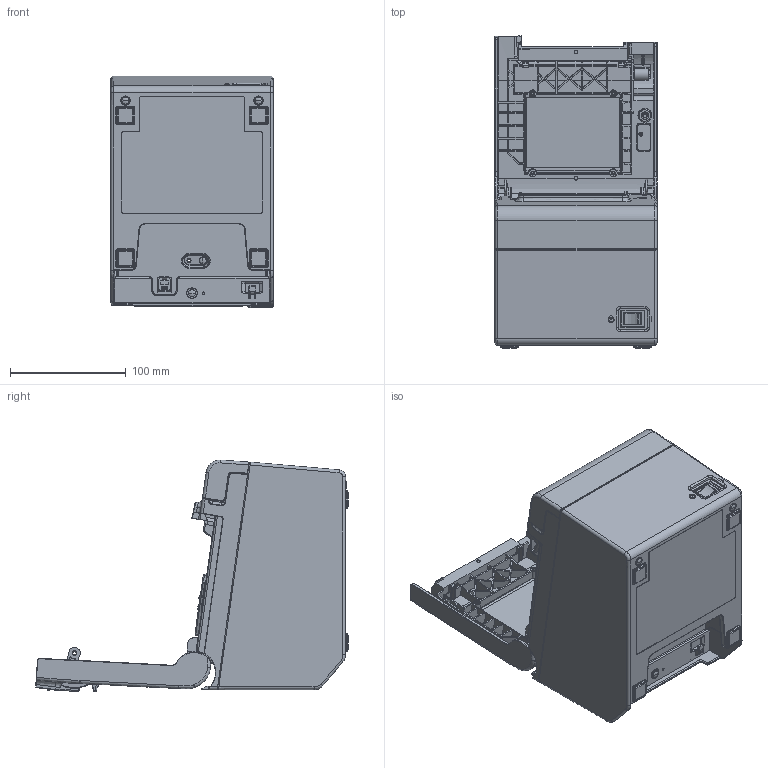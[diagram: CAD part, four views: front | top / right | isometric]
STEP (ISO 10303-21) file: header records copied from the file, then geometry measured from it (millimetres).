
FILE_DESCRIPTION((''),'2;1');
FILE_NAME('TM-T20III_OPEN','2025-01-15T16:32:05',('5012938'),(''),'CREO PARAMETRIC BY PTC INC, 2022281','CREO PARAMETRIC BY PTC INC, 2022281','');
FILE_SCHEMA(('AUTOMOTIVE_DESIGN { 1 0 10303 214 1 1 1 1 }'));
Products named in the file (1): TM-T20III_OPEN
Bounding box: 140 x 269.9 x 200.42 mm (x, y, z)
Surface area: 475959.2 mm2 (no closed solid volume)
Topology: 0 solids, 51 shells, 3967 faces, 11423 edges, 7418 vertices
Faces by surface type: plane 1909, cylinder 1380, bspline 340, torus 165, cone 115, sphere 50, extrusion 8
Entity records: 176025 total; most frequent: CARTESIAN_POINT 74085, ORIENTED_EDGE 21310, DIRECTION 20379, EDGE_CURVE 11406, VERTEX_POINT 7418, VECTOR 6985, LINE 6977, AXIS2_PLACEMENT_3D 6697
